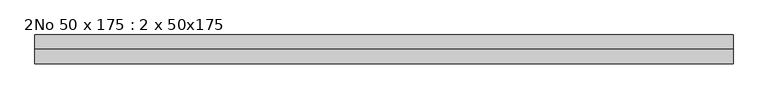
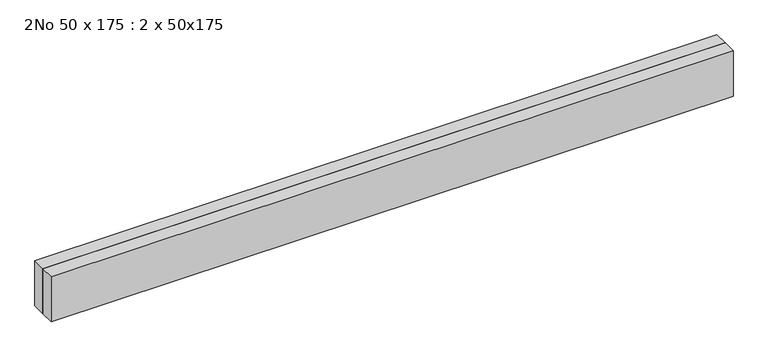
"""IFC4 building model written with IfcOpenShell, lengths in millimetres: beam geometry, 2No 50 x 175 : 2 x 50x175."""

from ifc_helpers import new_model, si_unit, frame, origin, place, context, project, spatial, polyline, outline, extrude, source, transform, mapped, element, save


def beam_2no_50_x_175_2_x_50x175_2b7af52e(model_context):
    return source(origin(), model_context, "Body", "SweptSolid", [
        extrude(outline(polyline([(1026.5000006, -25.0), (1026.5000006, -75.0), (-1407.4154181, -75.0), (-1407.4154181, -25.0), (1026.5000006, -25.0)])), frame((0.0, 0.0, -85.0), z_axis=(0.0, 0.0, 1.0), x_axis=(1.0, 0.0, 0.0)), (0.0, 0.0, 1.0), 170.0),
        extrude(outline(polyline([(1026.5000006, 25.0), (1026.5000006, -25.0), (-1407.4154181, -25.0), (-1407.4154181, 25.0), (1026.5000006, 25.0)])), frame((0.0, 0.0, -85.0), z_axis=(0.0, 0.0, 1.0), x_axis=(1.0, 0.0, 0.0)), (0.0, 0.0, 1.0), 170.0),
    ])


if __name__ == "__main__":
    model = new_model("IFC4")
    model_context = context("Model", 3, world=origin())
    ifc_project = project(units=[si_unit("LENGTHUNIT", "METRE", prefix="MILLI")], contexts=[model_context])
    site = spatial("IfcSite", under=ifc_project)
    building = spatial("IfcBuilding", under=site)
    placement = place(None, origin())
    beam_2no_50_x_175_2_x_50x175_shape = beam_2no_50_x_175_2_x_50x175_2b7af52e(model_context)
    element("IfcBeam", 1, ObjectType="2No 50 x 175 : 2 x 50x175", at=placement, inside=building, context=model_context, shape_type="MappedRepresentation", body=[
        mapped(beam_2no_50_x_175_2_x_50x175_shape, transform((0.0, 0.0, 0.0), x_axis=(1.0, 0.0, 0.0), y_axis=(0.0, 1.0, 0.0), z_axis=(0.0, 0.0, 1.0))),
    ])
    save(model, "model.ifc")
